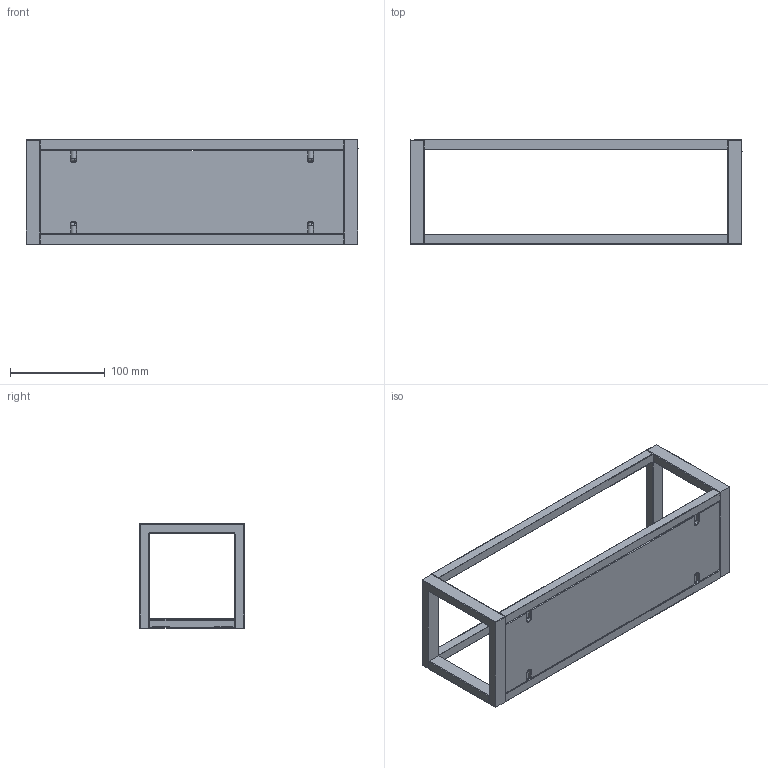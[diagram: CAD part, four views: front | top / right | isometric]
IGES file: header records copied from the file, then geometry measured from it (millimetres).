
Start section: SolidWorks IGES file using NURBS representation for surfaces
Global section: file name: D:\Weijuan\Desktop\陔膘恅璃標\268##63.IGS; native system: SolidWorks 2014; preprocessor: SolidWorks 2014; author: weijuan; date: 170316.141528; units: millimetre
Bounding box: 350 x 110 x 110.15 mm (x, y, z)
Surface area: 161508.8 mm2 (no closed solid volume)
Topology: 0 solids, 0 shells, 366 faces, 5042 edges, 6369 vertices
Faces by surface type: bspline 366
